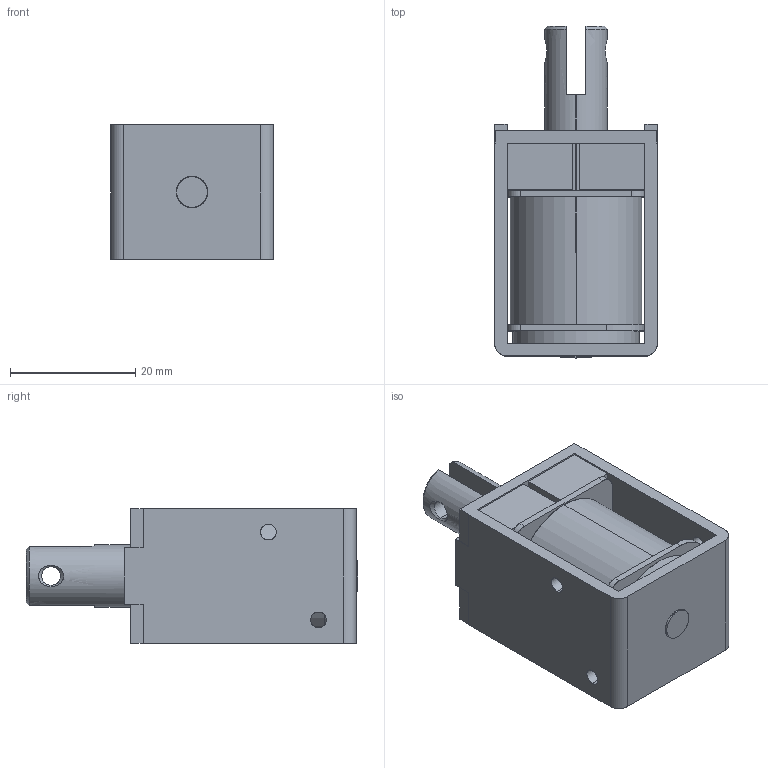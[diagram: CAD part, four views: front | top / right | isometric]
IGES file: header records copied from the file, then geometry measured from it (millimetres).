
Start section: SolidWorks IGES file using analytic representation for surfaces
Global section: file name: L:\カタログ\web用3Dデータ\CD1037\3D_CD1037\w_cd1037.IGS; native system: SolidWorks 2014; preprocessor: SolidWorks 2014; author: jiba; date: 140725.133418; units: millimetre
Bounding box: 26 x 53 x 21.5 mm (x, y, z)
Surface area: 12088.4 mm2 (no closed solid volume)
Topology: 0 solids, 0 shells, 116 faces, 1834 edges, 1834 vertices
Faces by surface type: bspline 66, revolution 50
